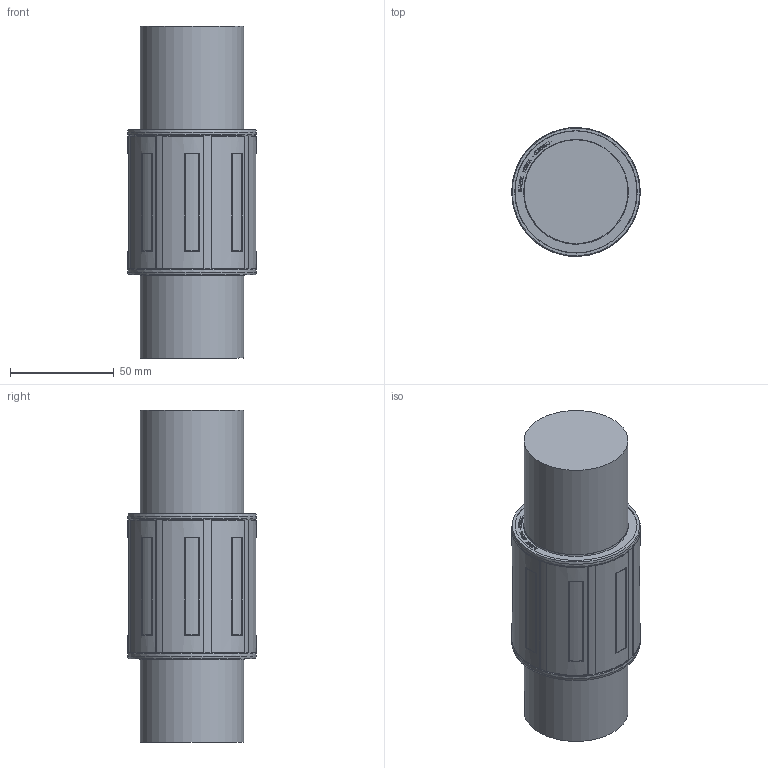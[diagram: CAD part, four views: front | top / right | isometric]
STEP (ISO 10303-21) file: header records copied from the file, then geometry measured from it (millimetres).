
FILE_DESCRIPTION(/* description */ (''),/* implementation_level */ '2;1');
FILE_NAME(/* name */ 'C:\Users\조경제\OneDrive - mysamick.com\바탕 화면\STP\STP_rev1\CLB50UU.stp',/* time_stamp */ '2025-02-05T13:44:23+09:00',/* author */ ('조경제'),/* organization */ (''),/* preprocessor_version */ 'ST-DEVELOPER v17',/* originating_system */ 'Autodesk Inventor 2019',/* authorisation */ '');
FILE_SCHEMA (('AUTOMOTIVE_DESIGN { 1 0 10303 214 3 1 1 }'));
Length unit declared in the file: millimetre
Products named in the file (1): CLB50UU
Bounding box: 62 x 62 x 160 mm (x, y, z)
Volume: 385358.6 mm3; surface area: 35028.3 mm2
Topology: 1 solids, 1 shells, 1152 faces, 3144 edges, 2080 vertices
Faces by surface type: bspline 720, plane 342, cylinder 64, torus 18, cone 8
Full cylindrical faces by diameter (mm): 50 x2, 59 x2, 59.1 x2, 62 x2
Entity records: 39927 total; most frequent: CARTESIAN_POINT 14315, ORIENTED_EDGE 6288, EDGE_CURVE 3144, DIRECTION 2832, VERTEX_POINT 2080, LINE 1474, VECTOR 1474, B_SPLINE_CURVE_WITH_KNOTS 1424
